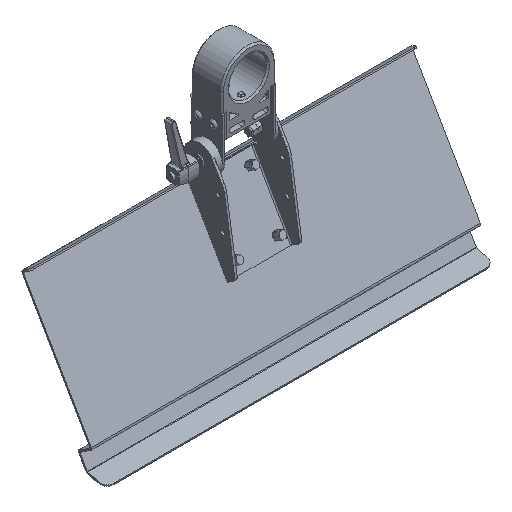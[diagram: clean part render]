
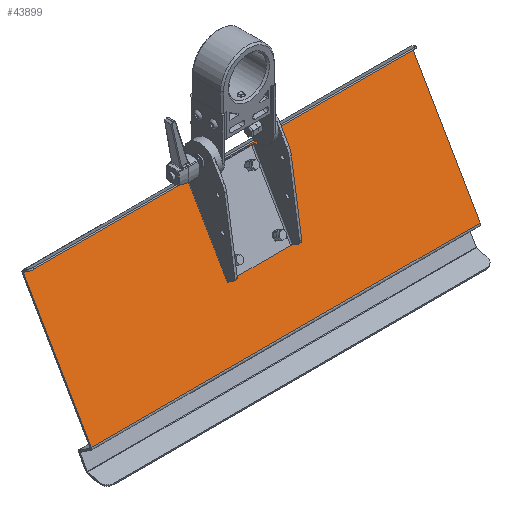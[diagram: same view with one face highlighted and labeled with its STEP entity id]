
A CAD part, isometric view. The second image highlights one B-rep face of the part: STEP entity #43899.
In plain terms, the highlighted planar face has unit normal (0, -0.866, 0.5).
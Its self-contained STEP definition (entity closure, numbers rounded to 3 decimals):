
#613 = CARTESIAN_POINT ( 'NONE',  ( -250.232, -76.788, -162.677 ) ) ;
#1008 = DIRECTION ( 'NONE',  ( 0., 0.866, -0.5 ) ) ;
#1933 = VERTEX_POINT ( 'NONE', #8261 ) ;
#2140 = VERTEX_POINT ( 'NONE', #37931 ) ;
#2435 = EDGE_CURVE ( 'NONE', #1933, #2140, #53922, .T. ) ;
#3142 = VERTEX_POINT ( 'NONE', #29835 ) ;
#3750 = EDGE_LOOP ( 'NONE', ( #13408 ) ) ;
#3998 = LINE ( 'NONE', #22622, #31529 ) ;
#4103 = CARTESIAN_POINT ( 'NONE',  ( -27.732, -33.288, -87.333 ) ) ;
#4112 = ORIENTED_EDGE ( 'NONE', *, *, #32589, .T. ) ;
#4685 = ORIENTED_EDGE ( 'NONE', *, *, #2435, .T. ) ;
#5272 = DIRECTION ( 'NONE',  ( 1., 0., 0. ) ) ;
#6213 = ORIENTED_EDGE ( 'NONE', *, *, #26253, .T. ) ;
#6241 = DIRECTION ( 'NONE',  ( 0.5, -0.433, -0.75 ) ) ;
#6836 = CARTESIAN_POINT ( 'NONE',  ( 29.918, -35.583, -91.308 ) ) ;
#7107 = FACE_BOUND ( 'NONE', #14087, .T. ) ;
#7697 = FACE_BOUND ( 'NONE', #3750, .T. ) ;
#8261 = CARTESIAN_POINT ( 'NONE',  ( -250.232, -76.788, -162.677 ) ) ;
#8358 = AXIS2_PLACEMENT_3D ( 'NONE', #4103, #22139, #18354 ) ;
#8895 = DIRECTION ( 'NONE',  ( 0.5, -0.433, -0.75 ) ) ;
#8905 = VERTEX_POINT ( 'NONE', #22313 ) ;
#9197 = DIRECTION ( 'NONE',  ( 0., 0.5, 0.866 ) ) ;
#9223 = CIRCLE ( 'NONE', #41760, 5.3 ) ;
#13285 = CARTESIAN_POINT ( 'NONE',  ( 27.268, 1.712, -26.711 ) ) ;
#13313 = EDGE_CURVE ( 'NONE', #8905, #8905, #56986, .T. ) ;
#13408 = ORIENTED_EDGE ( 'NONE', *, *, #18568, .T. ) ;
#14087 = EDGE_LOOP ( 'NONE', ( #4112 ) ) ;
#15551 = DIRECTION ( 'NONE',  ( 0., 0.5, 0.866 ) ) ;
#15556 = FACE_OUTER_BOUND ( 'NONE', #42194, .T. ) ;
#18354 = DIRECTION ( 'NONE',  ( 0.5, -0.433, -0.75 ) ) ;
#18568 = EDGE_CURVE ( 'NONE', #23476, #23476, #35782, .T. ) ;
#18784 = DIRECTION ( 'NONE',  ( 0.5, -0.433, -0.75 ) ) ;
#18954 = ORIENTED_EDGE ( 'NONE', *, *, #13313, .T. ) ;
#19666 = AXIS2_PLACEMENT_3D ( 'NONE', #50815, #42355, #24882 ) ;
#19940 = FACE_BOUND ( 'NONE', #24122, .T. ) ;
#20443 = VECTOR ( 'NONE', #33523, 1000. ) ;
#22139 = DIRECTION ( 'NONE',  ( 0., 0.866, -0.5 ) ) ;
#22313 = CARTESIAN_POINT ( 'NONE',  ( 29.918, -0.583, -30.686 ) ) ;
#22622 = CARTESIAN_POINT ( 'NONE',  ( -250.232, -77.288, -163.543 ) ) ;
#23476 = VERTEX_POINT ( 'NONE', #50816 ) ;
#23670 = VERTEX_POINT ( 'NONE', #45068 ) ;
#23955 = VECTOR ( 'NONE', #15551, 1000. ) ;
#24009 = CARTESIAN_POINT ( 'NONE',  ( 249.768, -77.288, -163.543 ) ) ;
#24122 = EDGE_LOOP ( 'NONE', ( #18954 ) ) ;
#24594 = CARTESIAN_POINT ( 'NONE',  ( 27.268, -33.288, -87.333 ) ) ;
#24882 = DIRECTION ( 'NONE',  ( 0., -0.5, -0.866 ) ) ;
#25091 = VECTOR ( 'NONE', #5272, 1000. ) ;
#25589 = ORIENTED_EDGE ( 'NONE', *, *, #31600, .T. ) ;
#26253 = EDGE_CURVE ( 'NONE', #23670, #3142, #37601, .T. ) ;
#28971 = VERTEX_POINT ( 'NONE', #6836 ) ;
#29511 = DIRECTION ( 'NONE',  ( 0., 0.866, -0.5 ) ) ;
#29835 = CARTESIAN_POINT ( 'NONE',  ( -250.232, 10.212, -11.988 ) ) ;
#31052 = DIRECTION ( 'NONE',  ( 0., 0.866, -0.5 ) ) ;
#31529 = VECTOR ( 'NONE', #9197, 1000. ) ;
#31600 = EDGE_CURVE ( 'NONE', #56316, #56316, #40919, .T. ) ;
#32589 = EDGE_CURVE ( 'NONE', #28971, #28971, #9223, .T. ) ;
#33523 = DIRECTION ( 'NONE',  ( -1., 0., 0. ) ) ;
#33915 = ORIENTED_EDGE ( 'NONE', *, *, #51189, .T. ) ;
#35782 = CIRCLE ( 'NONE', #45079, 5.3 ) ;
#36546 = AXIS2_PLACEMENT_3D ( 'NONE', #13285, #31052, #8895 ) ;
#37052 = EDGE_LOOP ( 'NONE', ( #25589 ) ) ;
#37601 = LINE ( 'NONE', #41954, #20443 ) ;
#37931 = CARTESIAN_POINT ( 'NONE',  ( 249.768, -76.788, -162.677 ) ) ;
#37985 = LINE ( 'NONE', #24009, #23955 ) ;
#40919 = CIRCLE ( 'NONE', #8358, 5.3 ) ;
#41001 = ORIENTED_EDGE ( 'NONE', *, *, #52673, .F. ) ;
#41195 = CARTESIAN_POINT ( 'NONE',  ( -27.732, 1.712, -26.711 ) ) ;
#41760 = AXIS2_PLACEMENT_3D ( 'NONE', #24594, #29511, #6241 ) ;
#41954 = CARTESIAN_POINT ( 'NONE',  ( 249.768, 10.212, -11.988 ) ) ;
#42194 = EDGE_LOOP ( 'NONE', ( #4685, #33915, #6213, #41001 ) ) ;
#42355 = DIRECTION ( 'NONE',  ( 0., 0.866, -0.5 ) ) ;
#43221 = FACE_BOUND ( 'NONE', #37052, .T. ) ;
#43899 = ADVANCED_FACE ( 'NONE', ( #43221, #7697, #7107, #19940, #15556 ), #55196, .F. ) ;
#45068 = CARTESIAN_POINT ( 'NONE',  ( 249.768, 10.212, -11.988 ) ) ;
#45079 = AXIS2_PLACEMENT_3D ( 'NONE', #41195, #1008, #18784 ) ;
#46769 = CARTESIAN_POINT ( 'NONE',  ( -25.082, -35.583, -91.308 ) ) ;
#50815 = CARTESIAN_POINT ( 'NONE',  ( 249.768, -77.288, -163.543 ) ) ;
#50816 = CARTESIAN_POINT ( 'NONE',  ( -25.082, -0.583, -30.686 ) ) ;
#51189 = EDGE_CURVE ( 'NONE', #2140, #23670, #37985, .T. ) ;
#52673 = EDGE_CURVE ( 'NONE', #1933, #3142, #3998, .T. ) ;
#53922 = LINE ( 'NONE', #613, #25091 ) ;
#55196 = PLANE ( 'NONE',  #19666 ) ;
#56316 = VERTEX_POINT ( 'NONE', #46769 ) ;
#56986 = CIRCLE ( 'NONE', #36546, 5.3 ) ;
